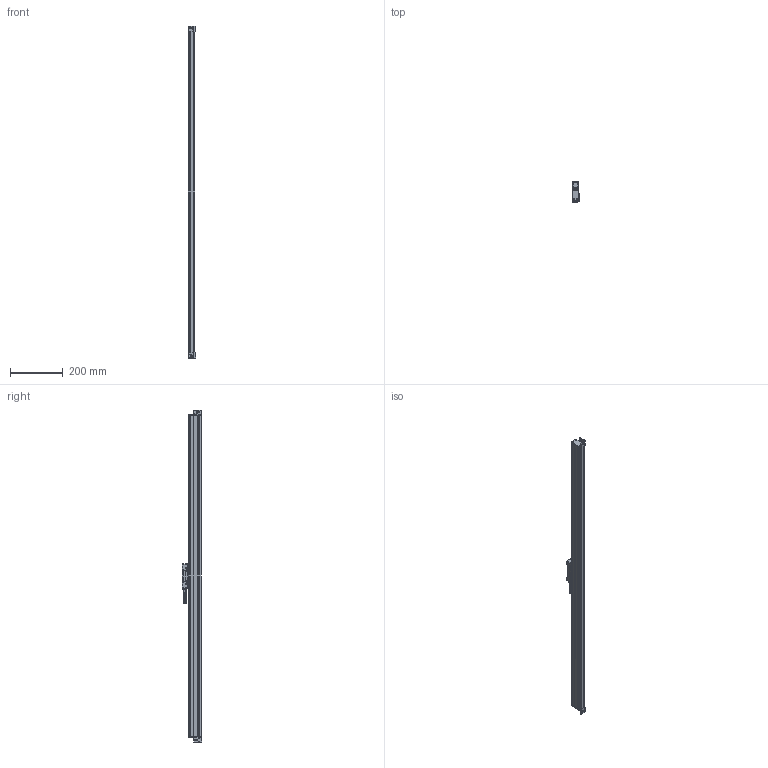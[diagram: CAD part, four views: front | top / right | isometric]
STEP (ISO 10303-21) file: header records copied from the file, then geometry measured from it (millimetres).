
FILE_DESCRIPTION (( 'STEP AP214' ), '1' );
FILE_NAME ('MLC310x1100.STEP', '2021-05-08T11:52:56', ( '' ), ( '' ), 'SwSTEP 2.0', 'SolidWorks 2014', '' );
FILE_SCHEMA (( 'AUTOMOTIVE_DESIGN' ));
Length unit declared in the file: millimetre
Products named in the file (1): MLC310x1100
Bounding box: 27 x 75.15 x 1264 mm (x, y, z)
Surface area: 220430.1 mm2 (no closed solid volume)
Topology: 0 solids, 20 shells, 371 faces, 1283 edges, 916 vertices
Faces by surface type: plane 153, cylinder 133, cone 65, bspline 14, torus 6
Entity records: 27596 total; most frequent: CARTESIAN_POINT 12724, DIRECTION 2232, ORIENTED_EDGE 1956, EDGE_CURVE 1279, VERTEX_POINT 916, AXIS2_PLACEMENT_3D 772, LINE 688, VECTOR 688
